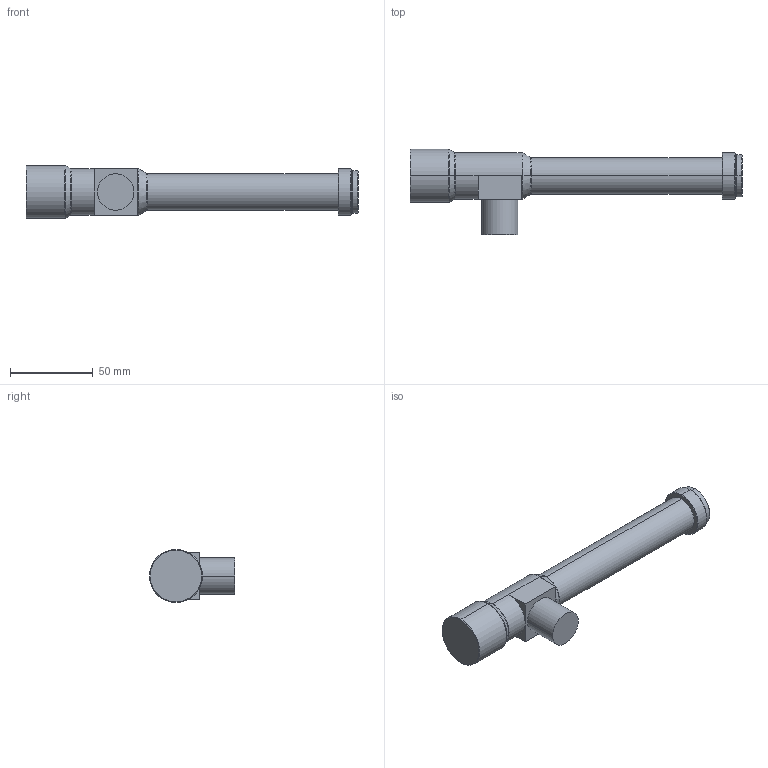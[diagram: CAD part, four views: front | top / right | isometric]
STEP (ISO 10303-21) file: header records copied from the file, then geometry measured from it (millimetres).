
FILE_DESCRIPTION (( 'STEP AP203' ), '1' );
FILE_NAME ('WWH80-108CTV3.STEP', '2021-05-14T10:00:36', ( 'Windows User' ), ( 'P R C' ), 'SwSTEP 2.0', 'SolidWorks 2017', '' );
FILE_SCHEMA (( 'CONFIG_CONTROL_DESIGN' ));
Length unit declared in the file: millimetre
Products named in the file (1): WWH80-108CTV3
Bounding box: 200.6 x 51.4 x 32 mm (x, y, z)
Volume: 110306.8 mm3; surface area: 19443.9 mm2
Topology: 1 solids, 1 shells, 48 faces, 96 edges, 54 vertices
Faces by surface type: cylinder 15, plane 13, cone 12, torus 8
Entity records: 1313 total; most frequent: DIRECTION 250, CARTESIAN_POINT 199, ORIENTED_EDGE 192, AXIS2_PLACEMENT_3D 105, EDGE_CURVE 96, CIRCLE 56, VERTEX_POINT 54, EDGE_LOOP 52
